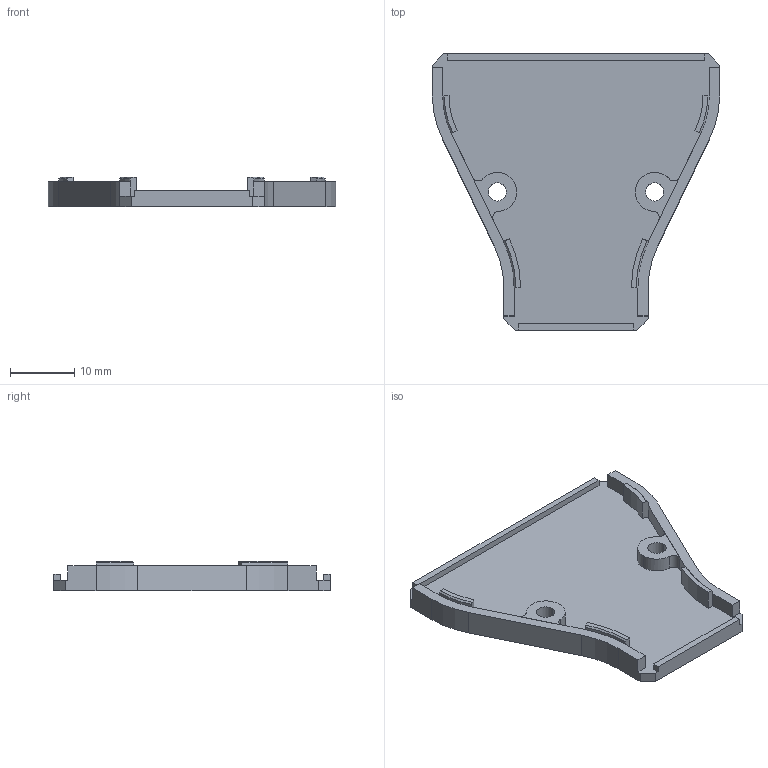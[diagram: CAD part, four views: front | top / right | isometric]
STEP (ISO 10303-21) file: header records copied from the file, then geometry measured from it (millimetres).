
FILE_DESCRIPTION(('CATIA V5 STEP Exchange'),'2;1');
FILE_NAME('X:\XDrive\Homepage\homes\techecke\elektronik\download\Oberteil.stp','2024-01-07T22:18:42+00:00',('none'),('none'),'CATIA Version 5 Release 19 SP 2 (IN-10)','CATIA V5 STEP AP203','none');
FILE_SCHEMA(('CONFIG_CONTROL_DESIGN'));
Length unit declared in the file: millimetre
Products named in the file (1): Oberteil
Bounding box: 44.7 x 43 x 4.6 mm (x, y, z)
Volume: 2820.6 mm3; surface area: 3770.2 mm2
Topology: 1 solids, 1 shells, 76 faces, 214 edges, 140 vertices
Faces by surface type: plane 48, cylinder 24, cone 4
Entity records: 2396 total; most frequent: CARTESIAN_POINT 483, ORIENTED_EDGE 428, DIRECTION 316, EDGE_CURVE 214, VECTOR 150, LINE 150, VERTEX_POINT 140, AXIS2_PLACEMENT_3D 105
